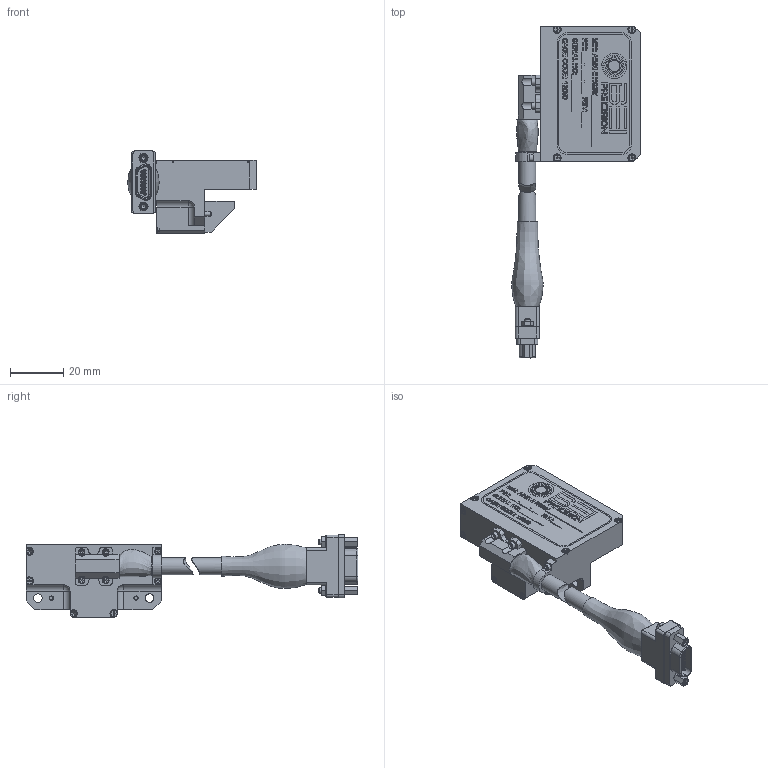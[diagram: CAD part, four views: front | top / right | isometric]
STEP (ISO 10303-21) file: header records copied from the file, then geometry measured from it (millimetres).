
FILE_DESCRIPTION (( 'STEP AP214' ), '1' );
FILE_NAME ('AIME-II Readhead Assy, Right Exit.STEP', '2020-07-17T20:51:08', ( '' ), ( '' ), 'SwSTEP 2.0', 'SolidWorks 2019', '' );
FILE_SCHEMA (( 'AUTOMOTIVE_DESIGN' ));
Length unit declared in the file: inch
Products named in the file (1): AIME-II Readhead Assy, Right Exit
Bounding box: 48.34 x 124.59 x 31.12 mm (x, y, z)
Volume: 39119.9 mm3; surface area: 12888.1 mm2
Topology: 2 solids, 14 shells, 1547 faces, 3872 edges, 2523 vertices
Faces by surface type: plane 1042, cylinder 213, bspline 213, cone 75, sphere 2, torus 2
Full cylindrical faces by diameter (mm): 0.508 x15, 0.635 x15, 1.513 x1, 1.524 x12, 1.575 x2, 1.59 x2, 1.694 x2, 1.778 x12, 2.17 x4, 2.2 x2, 2.311 x2, 2.339 x1, 2.36 x2, 2.4 x2, 2.438 x18, 3.251 x2, 6.35 x3
Entity records: 87701 total; most frequent: CARTESIAN_POINT 32965, ORIENTED_EDGE 7186, DIRECTION 6328, EDGE_CURVE 3593, VECTOR 2616, LINE 2616, VERTEX_POINT 2432, EDGE_LOOP 1939
